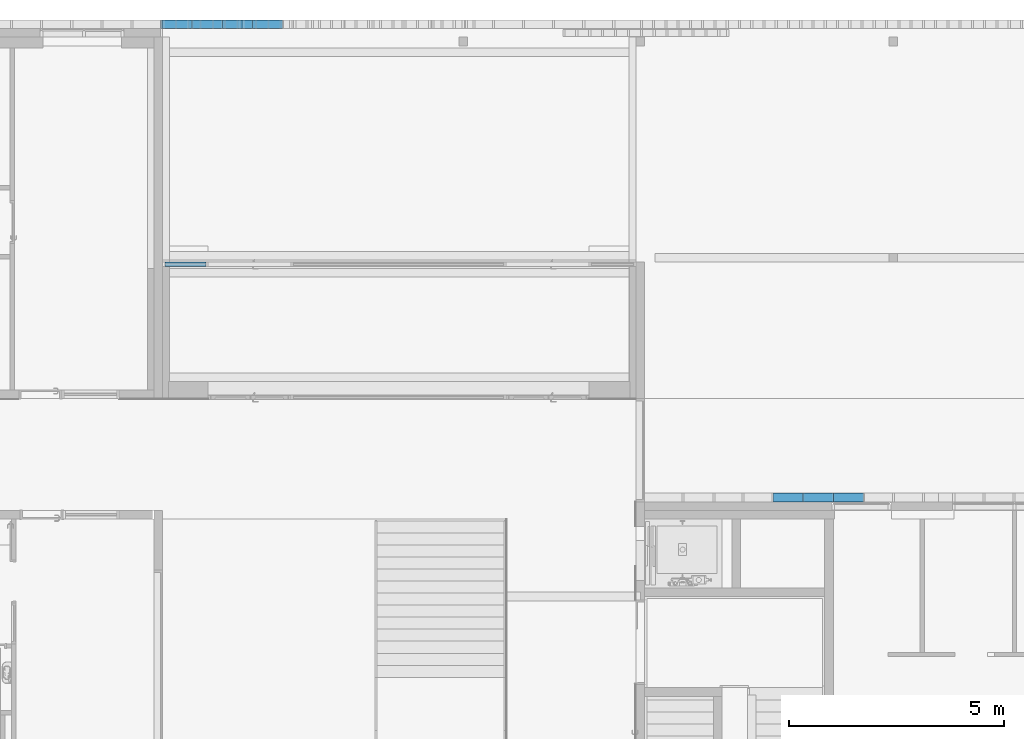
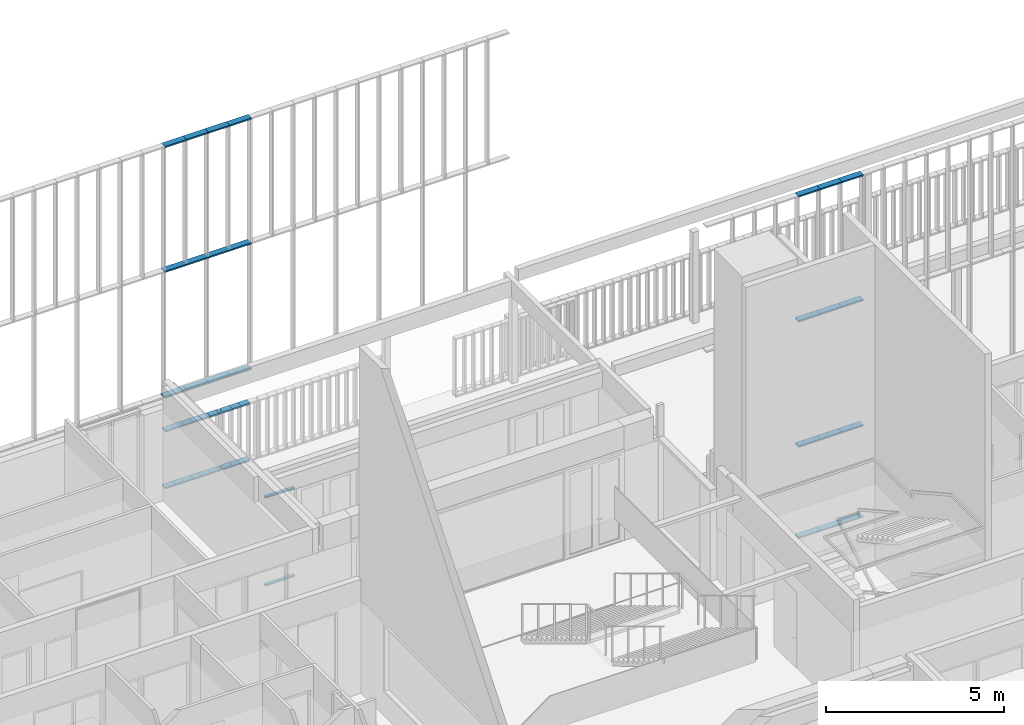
# One storey, part 45 of 240: 50 members, 5 elements without a shape of their own.
"""IFC2X3 building model written with IfcOpenShell, lengths in centimetres."""

from ifc_helpers import new_model, entity, si_unit, converted_unit, derived_unit, direction, frame, origin, origin_2d_with_axis, place, context, subcontext, project, spatial, rectangle, extrude, source, transform, mapped, material, type_object, type_shapes, element, aggregate, save


model = new_model("IFC2X3")

# Units and contexts
model_context = context("Model", 3, precision=0.001, world=origin(), true_north=direction((6.12303176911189e-17, 1.0)))
body_context = subcontext(model_context, "Body", "Model", "MODEL_VIEW")
ifc_project = project(units=[si_unit("LENGTHUNIT", "METRE", prefix="CENTI"), si_unit("AREAUNIT", "SQUARE_METRE"), si_unit("VOLUMEUNIT", "CUBIC_METRE"), converted_unit("PLANEANGLEUNIT", "DEGREE", entity("IfcRatioMeasure", 0.0174532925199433), si_unit("PLANEANGLEUNIT", "RADIAN"), dimensions=[0, 0, 0, 0, 0, 0, 0]), si_unit("MASSUNIT", "GRAM", prefix="KILO"), derived_unit("MASSDENSITYUNIT", [(si_unit("MASSUNIT", "GRAM", prefix="KILO"), 1), (si_unit("LENGTHUNIT", "METRE"), -3)]), si_unit("TIMEUNIT", "SECOND"), si_unit("FREQUENCYUNIT", "HERTZ"), si_unit("THERMODYNAMICTEMPERATUREUNIT", "DEGREE_CELSIUS"), derived_unit("THERMALTRANSMITTANCEUNIT", [(si_unit("MASSUNIT", "GRAM", prefix="KILO"), 1), (si_unit("THERMODYNAMICTEMPERATUREUNIT", "KELVIN"), -1), (si_unit("TIMEUNIT", "SECOND"), -3)]), derived_unit("VOLUMETRICFLOWRATEUNIT", [(si_unit("LENGTHUNIT", "METRE"), 3), (si_unit("TIMEUNIT", "SECOND"), -1)]), si_unit("ELECTRICCURRENTUNIT", "AMPERE"), si_unit("ELECTRICVOLTAGEUNIT", "VOLT"), si_unit("POWERUNIT", "WATT"), si_unit("FORCEUNIT", "NEWTON", prefix="KILO"), si_unit("ILLUMINANCEUNIT", "LUX"), si_unit("LUMINOUSFLUXUNIT", "LUMEN"), si_unit("LUMINOUSINTENSITYUNIT", "CANDELA"), derived_unit("USERDEFINED", [(si_unit("MASSUNIT", "GRAM", prefix="KILO"), -1), (si_unit("LENGTHUNIT", "METRE"), -2), (si_unit("TIMEUNIT", "SECOND"), 3), (si_unit("LUMINOUSFLUXUNIT", "LUMEN"), 1)]), derived_unit("LINEARVELOCITYUNIT", [(si_unit("LENGTHUNIT", "METRE"), 1), (si_unit("TIMEUNIT", "SECOND"), -1)]), si_unit("PRESSUREUNIT", "PASCAL"), derived_unit("USERDEFINED", [(si_unit("LENGTHUNIT", "METRE"), -2), (si_unit("MASSUNIT", "GRAM", prefix="KILO"), 1), (si_unit("TIMEUNIT", "SECOND"), -2)])], contexts=[model_context])

# Site, building, storey
site_placement = place(None, frame((-2781.94577612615, 7442.24238424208, 0.0)))
site = spatial("IfcSite", under=ifc_project, at=site_placement, Name="Default", CompositionType="ELEMENT")
building_placement = place(site_placement, origin())
building = spatial("IfcBuilding", under=site, at=building_placement, CompositionType="ELEMENT")
storey_placement = place(building_placement, origin())
storey = spatial("IfcBuildingStorey", under=building, at=storey_placement, Name="N00 - COO", CompositionType="ELEMENT", Elevation=0.0)

# Curtain wall, members
curtain_wall_type_1 = type_object("IfcCurtainWallType", Name="Mur-rideau:Epines - 200x50mm", PredefinedType="NOTDEFINED")
curtain_wall_1_placement = place(building_placement, origin())
curtain_wall_1 = element("IfcCurtainWall", 1, at=curtain_wall_1_placement, inside=storey, type_object=curtain_wall_type_1, Name="Mur-rideau:Epines - 200x50mm", ObjectType="Mur-rideau:Epines - 200x50mm")
ifc_material_1 = material(Name="Aluminium")
member_type_1 = type_object("IfcMemberType", Name="200x50 mm", PredefinedType="MEMBER")
shared_shape_1 = source(origin(), body_context, "Body", "SweptSolid", [
    extrude(rectangle(XDim=20.0, YDim=5.0, at=origin_2d_with_axis()), frame((-2.5, 0.0, -73.4999174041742), z_axis=(0.0, 0.0, 1.0), x_axis=(0.0, -1.0, 0.0)), (0.0, 0.0, 1.0), 73.4999174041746),
])
type_shapes(member_type_1, [shared_shape_1])
member_1_placement = place(building_placement, frame((-4772.99987760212, 40.0, 313.499999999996), z_axis=(-1.0, 0.0, 0.0), x_axis=(0.0, 0.0, -1.0)))
member_1 = element("IfcMember", 2, at=member_1_placement, type_object=member_type_1, material=ifc_material_1, Name="Meneau rectangulaire:200x50 mm", ObjectType="Meneau rectangulaire:200x50 mm", context=body_context, shape_type="MappedRepresentation", body=[
    mapped(shared_shape_1, transform((0.0, 0.0, 0.0), scale=1.0)),
])
member_type_2 = type_object("IfcMemberType", Name="200x50 mm", PredefinedType="MEMBER")
shared_shape_2 = source(origin(), body_context, "Body", "SweptSolid", [
    extrude(rectangle(XDim=20.0, YDim=5.0, at=origin_2d_with_axis()), frame((-2.5, 0.0, -70.0), z_axis=(0.0, 0.0, 1.0), x_axis=(0.0, -1.0, 0.0)), (0.0, 0.0, 1.0), 70.0000000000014),
])
type_shapes(member_type_2, [shared_shape_2])
member_2_placement = place(building_placement, frame((-4489.49987760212, 40.0, 1176.0), z_axis=(1.0, 0.0, 0.0), x_axis=(0.0, 0.0, 1.0)))
member_2 = element("IfcMember", 3, at=member_2_placement, type_object=member_type_2, material=ifc_material_1, Name="Meneau rectangulaire:200x50 mm", ObjectType="Meneau rectangulaire:200x50 mm", context=body_context, shape_type="MappedRepresentation", body=[
    mapped(shared_shape_2, transform((0.0, 0.0, 0.0), scale=1.0)),
])
member_3_placement = place(building_placement, frame((-4629.50004279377, 40.0, 1176.0), z_axis=(1.0, 0.0, 0.0), x_axis=(0.0, 0.0, 1.0)))
member_3 = element("IfcMember", 4, at=member_3_placement, type_object=member_type_2, material=ifc_material_1, Name="Meneau rectangulaire:200x50 mm", ObjectType="Meneau rectangulaire:200x50 mm", context=body_context, shape_type="MappedRepresentation", body=[
    mapped(shared_shape_2, transform((0.0, 0.0, 0.0), scale=1.0)),
])
member_4_placement = place(building_placement, frame((-4559.49996019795, 40.0, 1176.0), z_axis=(1.0, 0.0, 0.0), x_axis=(0.0, 0.0, 1.0)))
member_4 = element("IfcMember", 5, at=member_4_placement, type_object=member_type_2, material=ifc_material_1, Name="Meneau rectangulaire:200x50 mm", ObjectType="Meneau rectangulaire:200x50 mm", context=body_context, shape_type="MappedRepresentation", body=[
    mapped(shared_shape_2, transform((0.0, 0.0, 0.0), scale=1.0)),
])
member_5_placement = place(building_placement, frame((-4699.49996019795, 40.0, 1176.0), z_axis=(1.0, 0.0, 0.0), x_axis=(0.0, 0.0, 1.0)))
member_5 = element("IfcMember", 6, at=member_5_placement, type_object=member_type_2, material=ifc_material_1, Name="Meneau rectangulaire:200x50 mm", ObjectType="Meneau rectangulaire:200x50 mm", context=body_context, shape_type="MappedRepresentation", body=[
    mapped(shared_shape_2, transform((0.0, 0.0, 0.0), scale=1.0)),
])

curtain_wall_type_2 = type_object("IfcCurtainWallType", Name="Mur-rideau:Epines - 200x30mm", PredefinedType="NOTDEFINED")
curtain_wall_2_placement = place(storey_placement, origin())
curtain_wall_2 = element("IfcCurtainWall", 7, at=curtain_wall_2_placement, inside=storey, type_object=curtain_wall_type_2, Name="Mur-rideau:Epines - 200x30mm", ObjectType="Mur-rideau:Epines - 200x30mm")
member_6_placement = place(storey_placement, frame((-3209.29988284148, -1060.0, 1176.0), z_axis=(1.0, 0.0, 0.0), x_axis=(0.0, 0.0, 1.0)))
member_6 = element("IfcMember", 8, at=member_6_placement, type_object=member_type_2, material=ifc_material_1, Name="Meneau rectangulaire:200x50 mm", ObjectType="Meneau rectangulaire:200x50 mm", context=body_context, shape_type="MappedRepresentation", body=[
    mapped(shared_shape_2, transform((0.0, 0.0, 0.0), scale=1.0)),
])
member_7_placement = place(storey_placement, frame((-3139.29988284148, -1060.0, 1176.0), z_axis=(1.0, 0.0, 0.0), x_axis=(0.0, 0.0, 1.0)))
member_7 = element("IfcMember", 9, at=member_7_placement, type_object=member_type_2, material=ifc_material_1, Name="Meneau rectangulaire:200x50 mm", ObjectType="Meneau rectangulaire:200x50 mm", context=body_context, shape_type="MappedRepresentation", body=[
    mapped(shared_shape_2, transform((0.0, 0.0, 0.0), scale=1.0)),
])
member_8_placement = place(storey_placement, frame((-3279.29988284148, -1060.0, 1176.0), z_axis=(1.0, 0.0, 0.0), x_axis=(0.0, 0.0, 1.0)))
member_8 = element("IfcMember", 10, at=member_8_placement, type_object=member_type_2, material=ifc_material_1, Name="Meneau rectangulaire:200x50 mm", ObjectType="Meneau rectangulaire:200x50 mm", context=body_context, shape_type="MappedRepresentation", body=[
    mapped(shared_shape_2, transform((0.0, 0.0, 0.0), scale=1.0)),
])
member_type_3 = type_object("IfcMemberType", Name="200x50 mm", PredefinedType="MEMBER")
shared_shape_3 = source(origin(), body_context, "Body", "SweptSolid", [
    extrude(rectangle(XDim=20.0, YDim=5.0, at=origin_2d_with_axis()), frame((-2.5, 0.0, -70.0), z_axis=(0.0, 0.0, 1.0), x_axis=(0.0, -1.0, 0.0)), (0.0, 0.0, 1.0), 70.0000000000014),
])
type_shapes(member_type_3, [shared_shape_3])
member_9_placement = place(storey_placement, frame((-3209.29988284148, -1060.0, 0.0), z_axis=(-1.0, 0.0, 0.0), x_axis=(0.0, 0.0, -1.0)))
member_9 = element("IfcMember", 11, at=member_9_placement, type_object=member_type_3, material=ifc_material_1, Name="Meneau rectangulaire:200x50 mm", ObjectType="Meneau rectangulaire:200x50 mm", context=body_context, shape_type="MappedRepresentation", body=[
    mapped(shared_shape_3, transform((0.0, 0.0, 0.0), scale=1.0)),
])

# Member
member_type_4 = type_object("IfcMemberType", Name="200x50 mm", PredefinedType="MEMBER")
shared_shape_4 = source(origin(), body_context, "Body", "SweptSolid", [
    extrude(rectangle(XDim=20.0, YDim=5.0, at=origin_2d_with_axis()), frame((0.0, 0.0, -70.0), z_axis=(0.0, 0.0, 1.0), x_axis=(0.0, -1.0, 0.0)), (0.0, 0.0, 1.0), 70.0000000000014),
])
type_shapes(member_type_4, [shared_shape_4])
member_10_placement = place(building_placement, frame((-4699.49996019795, 40.0, 315.0), z_axis=(1.0, 0.0, 0.0), x_axis=(0.0, 0.0, 1.0)))
member_10 = element("IfcMember", 12, at=member_10_placement, type_object=member_type_4, material=ifc_material_1, Name="Meneau rectangulaire:200x50 mm", ObjectType="Meneau rectangulaire:200x50 mm", context=body_context, shape_type="MappedRepresentation", body=[
    mapped(shared_shape_4, transform((0.0, 0.0, 0.0), scale=1.0)),
])

member_11_placement = place(building_placement, frame((-4559.49996019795, 40.0, 315.0), z_axis=(1.0, 0.0, 0.0), x_axis=(0.0, 0.0, 1.0)))
member_11 = element("IfcMember", 13, at=member_11_placement, type_object=member_type_4, material=ifc_material_1, Name="Meneau rectangulaire:200x50 mm", ObjectType="Meneau rectangulaire:200x50 mm", context=body_context, shape_type="MappedRepresentation", body=[
    mapped(shared_shape_4, transform((0.0, 0.0, 0.0), scale=1.0)),
])

member_12_placement = place(storey_placement, frame((-3139.29988284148, -1060.0, 315.5), z_axis=(1.0, 0.0, 0.0), x_axis=(0.0, 0.0, 1.0)))
member_12 = element("IfcMember", 14, at=member_12_placement, type_object=member_type_4, material=ifc_material_1, Name="Meneau rectangulaire:200x50 mm", ObjectType="Meneau rectangulaire:200x50 mm", context=body_context, shape_type="MappedRepresentation", body=[
    mapped(shared_shape_4, transform((0.0, 0.0, 0.0), scale=1.0)),
])

member_13_placement = place(storey_placement, frame((-3279.29988284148, -1060.0, 315.5), z_axis=(1.0, 0.0, 0.0), x_axis=(0.0, 0.0, 1.0)))
member_13 = element("IfcMember", 15, at=member_13_placement, type_object=member_type_4, material=ifc_material_1, Name="Meneau rectangulaire:200x50 mm", ObjectType="Meneau rectangulaire:200x50 mm", context=body_context, shape_type="MappedRepresentation", body=[
    mapped(shared_shape_4, transform((0.0, 0.0, 0.0), scale=1.0)),
])

member_type_5 = type_object("IfcMemberType", Name="200x50 mm", PredefinedType="MEMBER")
shared_shape_5 = source(origin(), body_context, "Body", "SweptSolid", [
    extrude(rectangle(XDim=20.0, YDim=5.0, at=origin_2d_with_axis()), frame((0.0, 0.0, -70.0), z_axis=(0.0, 0.0, 1.0), x_axis=(0.0, -1.0, 0.0)), (0.0, 0.0, 1.0), 70.0000000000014),
])
type_shapes(member_type_5, [shared_shape_5])
member_14_placement = place(building_placement, frame((-4699.49996019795, 40.0, 745.5), z_axis=(1.0, 0.0, 0.0), x_axis=(0.0, 0.0, 1.0)))
member_14 = element("IfcMember", 16, at=member_14_placement, type_object=member_type_5, material=ifc_material_1, Name="Meneau rectangulaire:200x50 mm", ObjectType="Meneau rectangulaire:200x50 mm", context=body_context, shape_type="MappedRepresentation", body=[
    mapped(shared_shape_5, transform((0.0, 0.0, 0.0), scale=1.0)),
])

member_15_placement = place(building_placement, frame((-4559.49996019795, 40.0, 745.5), z_axis=(1.0, 0.0, 0.0), x_axis=(0.0, 0.0, 1.0)))
member_15 = element("IfcMember", 17, at=member_15_placement, type_object=member_type_5, material=ifc_material_1, Name="Meneau rectangulaire:200x50 mm", ObjectType="Meneau rectangulaire:200x50 mm", context=body_context, shape_type="MappedRepresentation", body=[
    mapped(shared_shape_5, transform((0.0, 0.0, 0.0), scale=1.0)),
])

member_16_placement = place(building_placement, frame((-4489.49987760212, 40.0, 745.5), z_axis=(1.0, 0.0, 0.0), x_axis=(0.0, 0.0, 1.0)))
member_16 = element("IfcMember", 18, at=member_16_placement, type_object=member_type_5, material=ifc_material_1, Name="Meneau rectangulaire:200x50 mm", ObjectType="Meneau rectangulaire:200x50 mm", context=body_context, shape_type="MappedRepresentation", body=[
    mapped(shared_shape_5, transform((0.0, 0.0, 0.0), scale=1.0)),
])

member_17_placement = place(building_placement, frame((-4629.50004279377, 40.0, 745.5), z_axis=(1.0, 0.0, 0.0), x_axis=(0.0, 0.0, 1.0)))
member_17 = element("IfcMember", 19, at=member_17_placement, type_object=member_type_5, material=ifc_material_1, Name="Meneau rectangulaire:200x50 mm", ObjectType="Meneau rectangulaire:200x50 mm", context=body_context, shape_type="MappedRepresentation", body=[
    mapped(shared_shape_5, transform((0.0, 0.0, 0.0), scale=1.0)),
])

member_18_placement = place(storey_placement, frame((-3139.29988284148, -1060.0, 745.5), z_axis=(1.0, 0.0, 0.0), x_axis=(0.0, 0.0, 1.0)))
member_18 = element("IfcMember", 20, at=member_18_placement, type_object=member_type_5, material=ifc_material_1, Name="Meneau rectangulaire:200x50 mm", ObjectType="Meneau rectangulaire:200x50 mm", context=body_context, shape_type="MappedRepresentation", body=[
    mapped(shared_shape_5, transform((0.0, 0.0, 0.0), scale=1.0)),
])

member_19_placement = place(storey_placement, frame((-3279.29988284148, -1060.0, 745.5), z_axis=(1.0, 0.0, 0.0), x_axis=(0.0, 0.0, 1.0)))
member_19 = element("IfcMember", 21, at=member_19_placement, type_object=member_type_5, material=ifc_material_1, Name="Meneau rectangulaire:200x50 mm", ObjectType="Meneau rectangulaire:200x50 mm", context=body_context, shape_type="MappedRepresentation", body=[
    mapped(shared_shape_5, transform((0.0, 0.0, 0.0), scale=1.0)),
])

member_20_placement = place(storey_placement, frame((-3209.29988284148, -1060.0, 745.5), z_axis=(1.0, 0.0, 0.0), x_axis=(0.0, 0.0, 1.0)))
member_20 = element("IfcMember", 22, at=member_20_placement, type_object=member_type_5, material=ifc_material_1, Name="Meneau rectangulaire:200x50 mm", ObjectType="Meneau rectangulaire:200x50 mm", context=body_context, shape_type="MappedRepresentation", body=[
    mapped(shared_shape_5, transform((0.0, 0.0, 0.0), scale=1.0)),
])

member_type_6 = type_object("IfcMemberType", Name="200x50 mm", PredefinedType="MEMBER")
shared_shape_6 = source(origin(), body_context, "Body", "SweptSolid", [
    extrude(rectangle(XDim=20.0, YDim=5.0, at=origin_2d_with_axis()), frame((-2.5, 0.0, -70.0), z_axis=(0.0, 0.0, 1.0), x_axis=(0.0, -1.0, 0.0)), (0.0, 0.0, 1.0), 69.9999999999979),
])
type_shapes(member_type_6, [shared_shape_6])
member_21_placement = place(building_placement, frame((-4629.50004279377, 40.0, 313.499999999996), z_axis=(-1.0, 0.0, 0.0), x_axis=(0.0, 0.0, -1.0)))
member_21 = element("IfcMember", 23, at=member_21_placement, type_object=member_type_6, material=ifc_material_1, Name="Meneau rectangulaire:200x50 mm", ObjectType="Meneau rectangulaire:200x50 mm", context=body_context, shape_type="MappedRepresentation", body=[
    mapped(shared_shape_6, transform((0.0, 0.0, 0.0), scale=1.0)),
])

member_22_placement = place(building_placement, frame((-4559.49996019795, 40.0, 313.499999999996), z_axis=(-1.0, 0.0, 0.0), x_axis=(0.0, 0.0, -1.0)))
member_22 = element("IfcMember", 24, at=member_22_placement, type_object=member_type_6, material=ifc_material_1, Name="Meneau rectangulaire:200x50 mm", ObjectType="Meneau rectangulaire:200x50 mm", context=body_context, shape_type="MappedRepresentation", body=[
    mapped(shared_shape_6, transform((0.0, 0.0, 0.0), scale=1.0)),
])

member_23_placement = place(building_placement, frame((-4699.49996019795, 40.0, 313.499999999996), z_axis=(-1.0, 0.0, 0.0), x_axis=(0.0, 0.0, -1.0)))
member_23 = element("IfcMember", 25, at=member_23_placement, type_object=member_type_6, material=ifc_material_1, Name="Meneau rectangulaire:200x50 mm", ObjectType="Meneau rectangulaire:200x50 mm", context=body_context, shape_type="MappedRepresentation", body=[
    mapped(shared_shape_6, transform((0.0, 0.0, 0.0), scale=1.0)),
])

member_24_placement = place(storey_placement, frame((-3349.29988284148, -1060.0, 0.0), z_axis=(-1.0, 0.0, 0.0), x_axis=(0.0, 0.0, -1.0)))
member_24 = element("IfcMember", 26, at=member_24_placement, type_object=member_type_6, material=ifc_material_1, Name="Meneau rectangulaire:200x50 mm", ObjectType="Meneau rectangulaire:200x50 mm", context=body_context, shape_type="MappedRepresentation", body=[
    mapped(shared_shape_6, transform((0.0, 0.0, 0.0), scale=1.0)),
])

member_type_7 = type_object("IfcMemberType", Name="200x50 mm", PredefinedType="MEMBER")
shared_shape_7 = source(origin(), body_context, "Body", "SweptSolid", [
    extrude(rectangle(XDim=20.0, YDim=5.0, at=origin_2d_with_axis()), frame((0.0, 0.0, -70.0), z_axis=(0.0, 0.0, 1.0), x_axis=(0.0, -1.0, 0.0)), (0.0, 0.0, 1.0), 70.0000000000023),
])
type_shapes(member_type_7, [shared_shape_7])
member_25_placement = place(building_placement, frame((-4629.50004279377, 40.0, 315.0), z_axis=(1.0, 0.0, 0.0), x_axis=(0.0, 0.0, 1.0)))
member_25 = element("IfcMember", 27, at=member_25_placement, type_object=member_type_7, material=ifc_material_1, Name="Meneau rectangulaire:200x50 mm", ObjectType="Meneau rectangulaire:200x50 mm", context=body_context, shape_type="MappedRepresentation", body=[
    mapped(shared_shape_7, transform((0.0, 0.0, 0.0), scale=1.0)),
])

member_26_placement = place(building_placement, frame((-4489.49987760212, 40.0, 315.0), z_axis=(1.0, 0.0, 0.0), x_axis=(0.0, 0.0, 1.0)))
member_26 = element("IfcMember", 28, at=member_26_placement, type_object=member_type_7, material=ifc_material_1, Name="Meneau rectangulaire:200x50 mm", ObjectType="Meneau rectangulaire:200x50 mm", context=body_context, shape_type="MappedRepresentation", body=[
    mapped(shared_shape_7, transform((0.0, 0.0, 0.0), scale=1.0)),
])

aggregate(curtain_wall_1, [member_1, member_14, member_2, member_3, member_21, member_15, member_4, member_22, member_16, member_5, member_23, member_17, member_10, member_25, member_11, member_26])

member_27_placement = place(storey_placement, frame((-3209.29988284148, -1060.0, 315.5), z_axis=(1.0, 0.0, 0.0), x_axis=(0.0, 0.0, 1.0)))
member_27 = element("IfcMember", 29, at=member_27_placement, type_object=member_type_7, material=ifc_material_1, Name="Meneau rectangulaire:200x50 mm", ObjectType="Meneau rectangulaire:200x50 mm", context=body_context, shape_type="MappedRepresentation", body=[
    mapped(shared_shape_7, transform((0.0, 0.0, 0.0), scale=1.0)),
])

member_type_8 = type_object("IfcMemberType", Name="200x50 mm", PredefinedType="MEMBER")
shared_shape_8 = source(origin(), body_context, "Body", "SweptSolid", [
    extrude(rectangle(XDim=20.0, YDim=5.0, at=origin_2d_with_axis()), frame((-2.5, 0.0, -70.0), z_axis=(0.0, 0.0, 1.0), x_axis=(0.0, -1.0, 0.0)), (0.0, 0.0, 1.0), 70.0000000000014),
])
type_shapes(member_type_8, [shared_shape_8])
member_28_placement = place(storey_placement, frame((-3279.29988284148, -1060.0, 0.0), z_axis=(-1.0, 0.0, 0.0), x_axis=(0.0, 0.0, -1.0)))
member_28 = element("IfcMember", 30, at=member_28_placement, type_object=member_type_8, material=ifc_material_1, Name="Meneau rectangulaire:200x50 mm", ObjectType="Meneau rectangulaire:200x50 mm", context=body_context, shape_type="MappedRepresentation", body=[
    mapped(shared_shape_8, transform((0.0, 0.0, 0.0), scale=1.0)),
])

aggregate(curtain_wall_2, [member_6, member_9, member_12, member_18, member_24, member_13, member_19, member_7, member_8, member_28, member_27, member_20])

# Curtain wall, member
curtain_wall_type_3 = type_object("IfcCurtainWallType", Name="Mur-SR", PredefinedType="NOTDEFINED")
curtain_wall_3_placement = place(building_placement, origin())
curtain_wall_3 = element("IfcCurtainWall", 31, at=curtain_wall_3_placement, inside=storey, type_object=curtain_wall_type_3, Name="Mur-rideau:SR-Clôture", ObjectType="Mur-rideau:SR-Clôture")
member_type_9 = type_object("IfcMemberType", Name="Epine nord (200x50 mm)", PredefinedType="MEMBER")
shared_shape_9 = source(origin(), body_context, "Body", "SweptSolid", [
    extrude(rectangle(XDim=20.0, YDim=5.0, at=origin_2d_with_axis()), frame((-2.5, 0.0, -31.0), z_axis=(0.0, 0.0, 1.0), x_axis=(0.0, -1.0, 0.0)), (0.0, 0.0, 1.0), 31.0000000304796),
])
type_shapes(member_type_9, [shared_shape_9])
member_29_placement = place(building_placement, frame((-4736.99987757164, 40.0, 200.0), z_axis=(1.0, 0.0, 0.0), x_axis=(0.0, 0.0, 1.0)))
member_29 = element("IfcMember", 32, at=member_29_placement, type_object=member_type_9, material=ifc_material_1, Name="Meneau rectangulaire:Epine nord (200x50 mm)", ObjectType="Meneau rectangulaire:Epine nord (200x50 mm)", context=body_context, shape_type="MappedRepresentation", body=[
    mapped(shared_shape_9, transform((0.0, 0.0, 0.0), scale=1.0)),
])

curtain_wall_4_placement = place(storey_placement, origin())
curtain_wall_4 = element("IfcCurtainWall", 33, at=curtain_wall_4_placement, inside=storey, type_object=curtain_wall_type_3, Name="Mur-SR", ObjectType="Mur-SR")
member_30_placement = place(storey_placement, frame((-4550.99291430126, 40.0, 200.0), z_axis=(1.0, 0.0, 0.0), x_axis=(0.0, 0.0, 1.0)))
member_30 = element("IfcMember", 34, at=member_30_placement, type_object=member_type_9, material=ifc_material_1, Name="Meneau rectangulaire:Epine nord (200x50 mm)", ObjectType="Meneau rectangulaire:Epine nord (200x50 mm)", context=body_context, shape_type="MappedRepresentation", body=[
    mapped(shared_shape_9, transform((0.0, 0.0, 0.0), scale=1.0)),
])

# Member
member_type_10 = type_object("IfcMemberType", Name="Epine nord (200x50 mm)", PredefinedType="MEMBER")
shared_shape_10 = source(origin(), body_context, "Body", "SweptSolid", [
    extrude(rectangle(XDim=20.0, YDim=5.0, at=origin_2d_with_axis()), frame((-2.5, 0.0, -28.5000000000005), z_axis=(0.0, 0.0, 1.0), x_axis=(0.0, -1.0, 0.0)), (0.0, 0.0, 1.0), 28.5000000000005),
])
type_shapes(member_type_10, [shared_shape_10])
member_31_placement = place(building_placement, frame((-4708.49987757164, 40.0, 200.0), z_axis=(1.0, 0.0, 0.0), x_axis=(0.0, 0.0, 1.0)))
member_31 = element("IfcMember", 35, at=member_31_placement, type_object=member_type_10, material=ifc_material_1, Name="Meneau rectangulaire:Epine nord (200x50 mm)", ObjectType="Meneau rectangulaire:Epine nord (200x50 mm)", context=body_context, shape_type="MappedRepresentation", body=[
    mapped(shared_shape_10, transform((0.0, 0.0, 0.0), scale=1.0)),
])

member_32_placement = place(building_placement, frame((-4679.99987757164, 40.0, 200.0), z_axis=(1.0, 0.0, 0.0), x_axis=(0.0, 0.0, 1.0)))
member_32 = element("IfcMember", 36, at=member_32_placement, type_object=member_type_10, material=ifc_material_1, Name="Meneau rectangulaire:Epine nord (200x50 mm)", ObjectType="Meneau rectangulaire:Epine nord (200x50 mm)", context=body_context, shape_type="MappedRepresentation", body=[
    mapped(shared_shape_10, transform((0.0, 0.0, 0.0), scale=1.0)),
])

member_33_placement = place(building_placement, frame((-4651.49987757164, 40.0, 200.0), z_axis=(1.0, 0.0, 0.0), x_axis=(0.0, 0.0, 1.0)))
member_33 = element("IfcMember", 37, at=member_33_placement, type_object=member_type_10, material=ifc_material_1, Name="Meneau rectangulaire:Epine nord (200x50 mm)", ObjectType="Meneau rectangulaire:Epine nord (200x50 mm)", context=body_context, shape_type="MappedRepresentation", body=[
    mapped(shared_shape_10, transform((0.0, 0.0, 0.0), scale=1.0)),
])

member_34_placement = place(building_placement, frame((-4622.99987757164, 40.0, 200.0), z_axis=(1.0, 0.0, 0.0), x_axis=(0.0, 0.0, 1.0)))
member_34 = element("IfcMember", 38, at=member_34_placement, type_object=member_type_10, material=ifc_material_1, Name="Meneau rectangulaire:Epine nord (200x50 mm)", ObjectType="Meneau rectangulaire:Epine nord (200x50 mm)", context=body_context, shape_type="MappedRepresentation", body=[
    mapped(shared_shape_10, transform((0.0, 0.0, 0.0), scale=1.0)),
])

member_35_placement = place(building_placement, frame((-4594.49987757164, 40.0, 200.0), z_axis=(1.0, 0.0, 0.0), x_axis=(0.0, 0.0, 1.0)))
member_35 = element("IfcMember", 39, at=member_35_placement, type_object=member_type_10, material=ifc_material_1, Name="Meneau rectangulaire:Epine nord (200x50 mm)", ObjectType="Meneau rectangulaire:Epine nord (200x50 mm)", context=body_context, shape_type="MappedRepresentation", body=[
    mapped(shared_shape_10, transform((0.0, 0.0, 0.0), scale=1.0)),
])

member_36_placement = place(storey_placement, frame((-4522.49291430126, 40.0, 200.0), z_axis=(1.0, 0.0, 0.0), x_axis=(0.0, 0.0, 1.0)))
member_36 = element("IfcMember", 40, at=member_36_placement, type_object=member_type_10, material=ifc_material_1, Name="Meneau rectangulaire:Epine nord (200x50 mm)", ObjectType="Meneau rectangulaire:Epine nord (200x50 mm)", context=body_context, shape_type="MappedRepresentation", body=[
    mapped(shared_shape_10, transform((0.0, 0.0, 0.0), scale=1.0)),
])

member_37_placement = place(storey_placement, frame((-4493.99291430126, 40.0, 200.0), z_axis=(1.0, 0.0, 0.0), x_axis=(0.0, 0.0, 1.0)))
member_37 = element("IfcMember", 41, at=member_37_placement, type_object=member_type_10, material=ifc_material_1, Name="Meneau rectangulaire:Epine nord (200x50 mm)", ObjectType="Meneau rectangulaire:Epine nord (200x50 mm)", context=body_context, shape_type="MappedRepresentation", body=[
    mapped(shared_shape_10, transform((0.0, 0.0, 0.0), scale=1.0)),
])

member_type_11 = type_object("IfcMemberType", Name="Epine nord (200x50 mm)", PredefinedType="MEMBER")
shared_shape_11 = source(origin(), body_context, "Body", "SweptSolid", [
    extrude(rectangle(XDim=20.0, YDim=5.0, at=origin_2d_with_axis()), frame((-2.5, 0.0, -28.5000000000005), z_axis=(0.0, 0.0, 1.0), x_axis=(0.0, -1.0, 0.0)), (0.0, 0.0, 1.0), 28.5000000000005),
])
type_shapes(member_type_11, [shared_shape_11])
member_38_placement = place(building_placement, frame((-4736.99987757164, 40.0, 0.0), z_axis=(-1.0, 0.0, 0.0), x_axis=(0.0, 0.0, -1.0)))
member_38 = element("IfcMember", 42, at=member_38_placement, type_object=member_type_11, material=ifc_material_1, Name="Meneau rectangulaire:Epine nord (200x50 mm)", ObjectType="Meneau rectangulaire:Epine nord (200x50 mm)", context=body_context, shape_type="MappedRepresentation", body=[
    mapped(shared_shape_11, transform((0.0, 0.0, 0.0), scale=1.0)),
])

member_39_placement = place(building_placement, frame((-4708.49987757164, 40.0, 0.0), z_axis=(-1.0, 0.0, 0.0), x_axis=(0.0, 0.0, -1.0)))
member_39 = element("IfcMember", 43, at=member_39_placement, type_object=member_type_11, material=ifc_material_1, Name="Meneau rectangulaire:Epine nord (200x50 mm)", ObjectType="Meneau rectangulaire:Epine nord (200x50 mm)", context=body_context, shape_type="MappedRepresentation", body=[
    mapped(shared_shape_11, transform((0.0, 0.0, 0.0), scale=1.0)),
])

member_40_placement = place(building_placement, frame((-4679.99987757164, 40.0, 0.0), z_axis=(-1.0, 0.0, 0.0), x_axis=(0.0, 0.0, -1.0)))
member_40 = element("IfcMember", 44, at=member_40_placement, type_object=member_type_11, material=ifc_material_1, Name="Meneau rectangulaire:Epine nord (200x50 mm)", ObjectType="Meneau rectangulaire:Epine nord (200x50 mm)", context=body_context, shape_type="MappedRepresentation", body=[
    mapped(shared_shape_11, transform((0.0, 0.0, 0.0), scale=1.0)),
])

member_41_placement = place(building_placement, frame((-4651.49987757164, 40.0, 0.0), z_axis=(-1.0, 0.0, 0.0), x_axis=(0.0, 0.0, -1.0)))
member_41 = element("IfcMember", 45, at=member_41_placement, type_object=member_type_11, material=ifc_material_1, Name="Meneau rectangulaire:Epine nord (200x50 mm)", ObjectType="Meneau rectangulaire:Epine nord (200x50 mm)", context=body_context, shape_type="MappedRepresentation", body=[
    mapped(shared_shape_11, transform((0.0, 0.0, 0.0), scale=1.0)),
])

member_42_placement = place(building_placement, frame((-4622.99987757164, 40.0, 0.0), z_axis=(-1.0, 0.0, 0.0), x_axis=(0.0, 0.0, -1.0)))
member_42 = element("IfcMember", 46, at=member_42_placement, type_object=member_type_11, material=ifc_material_1, Name="Meneau rectangulaire:Epine nord (200x50 mm)", ObjectType="Meneau rectangulaire:Epine nord (200x50 mm)", context=body_context, shape_type="MappedRepresentation", body=[
    mapped(shared_shape_11, transform((0.0, 0.0, 0.0), scale=1.0)),
])

member_43_placement = place(storey_placement, frame((-4550.99291430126, 40.0, 0.0), z_axis=(-1.0, 0.0, 0.0), x_axis=(0.0, 0.0, -1.0)))
member_43 = element("IfcMember", 47, at=member_43_placement, type_object=member_type_11, material=ifc_material_1, Name="Meneau rectangulaire:Epine nord (200x50 mm)", ObjectType="Meneau rectangulaire:Epine nord (200x50 mm)", context=body_context, shape_type="MappedRepresentation", body=[
    mapped(shared_shape_11, transform((0.0, 0.0, 0.0), scale=1.0)),
])

member_44_placement = place(storey_placement, frame((-4522.49291430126, 40.0, 0.0), z_axis=(-1.0, 0.0, 0.0), x_axis=(0.0, 0.0, -1.0)))
member_44 = element("IfcMember", 48, at=member_44_placement, type_object=member_type_11, material=ifc_material_1, Name="Meneau rectangulaire:Epine nord (200x50 mm)", ObjectType="Meneau rectangulaire:Epine nord (200x50 mm)", context=body_context, shape_type="MappedRepresentation", body=[
    mapped(shared_shape_11, transform((0.0, 0.0, 0.0), scale=1.0)),
])

# Curtain wall, members
curtain_wall_type_4 = type_object("IfcCurtainWallType", Name="Mur-rideau:07 - mur rideau vitrage sans recoupement 10cm", PredefinedType="NOTDEFINED")
curtain_wall_5_placement = place(building_placement, origin())
curtain_wall_5 = element("IfcCurtainWall", 49, at=curtain_wall_5_placement, inside=storey, type_object=curtain_wall_type_4, Name="Mur-rideau:07 - mur rideau vitrage sans recoupement 10cm", ObjectType="Mur-rideau:07 - mur rideau vitrage sans recoupement 10cm")
ifc_material_2 = material(Name="Plastique, blanc opaque")
member_type_12 = type_object("IfcMemberType", Name="100 x 50mm", PredefinedType="MEMBER")
shared_shape_12 = source(origin(), body_context, "Body", "SweptSolid", [
    extrude(rectangle(XDim=10.0, YDim=5.0, at=origin_2d_with_axis()), frame((-2.5, 0.0, -95.2429526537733), z_axis=(0.0, 0.0, 1.0), x_axis=(0.0, -1.0, 0.0)), (0.0, 0.0, 1.0), 95.2429526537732),
])
type_shapes(member_type_12, [shared_shape_12])
member_45_placement = place(building_placement, frame((-4762.99987760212, -517.548500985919, 306.0), z_axis=(-1.0, 0.0, 0.0), x_axis=(0.0, 0.0, 1.0)))
member_45 = element("IfcMember", 50, at=member_45_placement, type_object=member_type_12, material=ifc_material_2, Name="Meneau rectangulaire:100 x 50mm", ObjectType="Meneau rectangulaire:100 x 50mm", context=body_context, shape_type="MappedRepresentation", body=[
    mapped(shared_shape_12, transform((0.0, 0.0, 0.0), scale=1.0)),
])
member_type_13 = type_object("IfcMemberType", Name="100 x 50mm", PredefinedType="MEMBER")
shared_shape_13 = source(origin(), body_context, "Body", "SweptSolid", [
    extrude(rectangle(XDim=10.0, YDim=5.0, at=origin_2d_with_axis()), frame((-2.5, 0.0, -95.2429526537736), z_axis=(0.0, 0.0, 1.0), x_axis=(0.0, -1.0, 0.0)), (0.0, 0.0, 1.0), 95.2429526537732),
])
type_shapes(member_type_13, [shared_shape_13])
member_46_placement = place(building_placement, frame((-4667.75692494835, -517.548500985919, 0.0), z_axis=(1.0, 0.0, 0.0), x_axis=(0.0, 0.0, -1.0)))
member_46 = element("IfcMember", 51, at=member_46_placement, type_object=member_type_13, material=ifc_material_2, Name="Meneau rectangulaire:100 x 50mm", ObjectType="Meneau rectangulaire:100 x 50mm", context=body_context, shape_type="MappedRepresentation", body=[
    mapped(shared_shape_13, transform((0.0, 0.0, 0.0), scale=1.0)),
])
aggregate(curtain_wall_5, [member_45, member_46])

# Member
member_type_14 = type_object("IfcMemberType", Name="Epine nord (200x50 mm)", PredefinedType="MEMBER")
shared_shape_14 = source(origin(), body_context, "Body", "SweptSolid", [
    extrude(rectangle(XDim=20.0, YDim=5.0, at=origin_2d_with_axis()), frame((-2.5, 0.0, -31.0), z_axis=(0.0, 0.0, 1.0), x_axis=(0.0, -1.0, 0.0)), (0.0, 0.0, 1.0), 31.0000000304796),
])
type_shapes(member_type_14, [shared_shape_14])
member_47_placement = place(building_placement, frame((-4767.99987760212, 40.0, 0.0), z_axis=(-1.0, 0.0, 0.0), x_axis=(0.0, 0.0, -1.0)))
member_47 = element("IfcMember", 52, at=member_47_placement, type_object=member_type_14, material=ifc_material_1, Name="Meneau rectangulaire:Epine nord (200x50 mm)", ObjectType="Meneau rectangulaire:Epine nord (200x50 mm)", context=body_context, shape_type="MappedRepresentation", body=[
    mapped(shared_shape_14, transform((0.0, 0.0, 0.0), scale=1.0)),
])

member_48_placement = place(storey_placement, frame((-4581.99291433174, 40.0, 0.0), z_axis=(-1.0, 0.0, 0.0), x_axis=(0.0, 0.0, -1.0)))
member_48 = element("IfcMember", 53, at=member_48_placement, type_object=member_type_14, material=ifc_material_1, Name="Meneau rectangulaire:Epine nord (200x50 mm)", ObjectType="Meneau rectangulaire:Epine nord (200x50 mm)", context=body_context, shape_type="MappedRepresentation", body=[
    mapped(shared_shape_14, transform((0.0, 0.0, 0.0), scale=1.0)),
])

aggregate(curtain_wall_4, [member_30, member_36, member_37, member_48, member_43, member_44])

member_type_15 = type_object("IfcMemberType", Name="Epine nord (200x50 mm)", PredefinedType="MEMBER")
shared_shape_15 = source(origin(), body_context, "Body", "SweptSolid", [
    extrude(rectangle(XDim=20.0, YDim=5.0, at=origin_2d_with_axis()), frame((-2.5, 0.0, -8.49999996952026), z_axis=(0.0, 0.0, 1.0), x_axis=(0.0, -1.0, 0.0)), (0.0, 0.0, 1.0), 8.49999996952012),
])
type_shapes(member_type_15, [shared_shape_15])
member_49_placement = place(building_placement, frame((-4585.99987760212, 40.0, 200.0), z_axis=(1.0, 0.0, 0.0), x_axis=(0.0, 0.0, 1.0)))
member_49 = element("IfcMember", 54, at=member_49_placement, type_object=member_type_15, material=ifc_material_1, Name="Meneau rectangulaire:Epine nord (200x50 mm)", ObjectType="Meneau rectangulaire:Epine nord (200x50 mm)", context=body_context, shape_type="MappedRepresentation", body=[
    mapped(shared_shape_15, transform((0.0, 0.0, 0.0), scale=1.0)),
])

member_type_16 = type_object("IfcMemberType", Name="Epine nord (200x50 mm)", PredefinedType="MEMBER")
shared_shape_16 = source(origin(), body_context, "Body", "SweptSolid", [
    extrude(rectangle(XDim=20.0, YDim=5.0, at=origin_2d_with_axis()), frame((-2.5, 0.0, -8.49999996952), z_axis=(0.0, 0.0, 1.0), x_axis=(0.0, -1.0, 0.0)), (0.0, 0.0, 1.0), 8.49999996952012),
])
type_shapes(member_type_16, [shared_shape_16])
member_50_placement = place(building_placement, frame((-4594.49987757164, 40.0, 0.0), z_axis=(-1.0, 0.0, 0.0), x_axis=(0.0, 0.0, -1.0)))
member_50 = element("IfcMember", 55, at=member_50_placement, type_object=member_type_16, material=ifc_material_1, Name="Meneau rectangulaire:Epine nord (200x50 mm)", ObjectType="Meneau rectangulaire:Epine nord (200x50 mm)", context=body_context, shape_type="MappedRepresentation", body=[
    mapped(shared_shape_16, transform((0.0, 0.0, 0.0), scale=1.0)),
])

aggregate(curtain_wall_3, [member_29, member_31, member_32, member_47, member_38, member_39, member_40, member_33, member_41, member_34, member_42, member_49, member_50, member_35])

save(model, "model.ifc")
